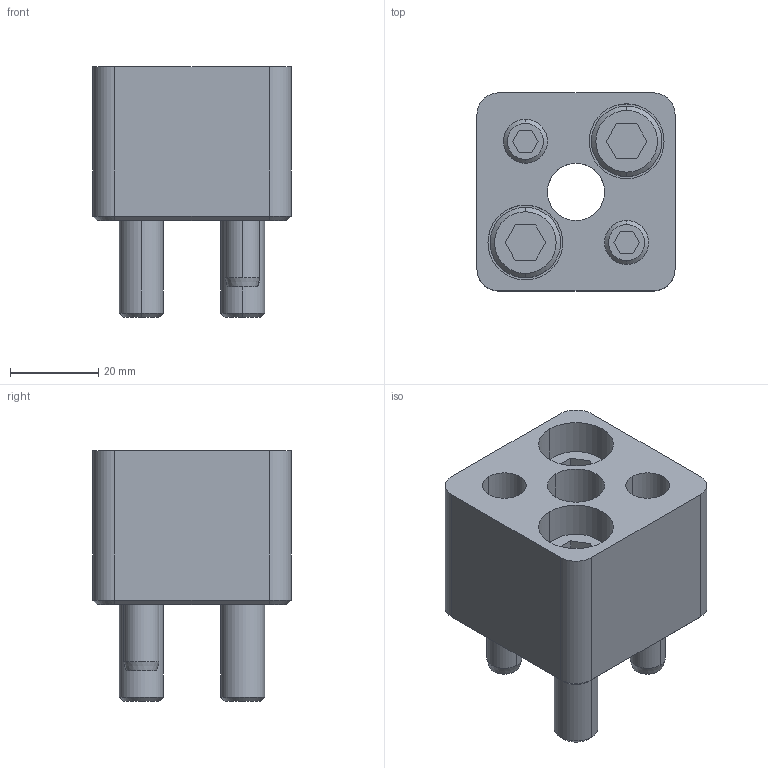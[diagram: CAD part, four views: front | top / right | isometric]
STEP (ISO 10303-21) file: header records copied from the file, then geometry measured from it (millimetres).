
FILE_DESCRIPTION(/* description */ (''),/* implementation_level */ '2;1');
FILE_NAME(/* name */ '3d_hasar13_04021_r00.stp',/* time_stamp */ '2011-01-10T14:14:56+09:00',/* author */ ('MISUMI'),/* organization */ (''),/* preprocessor_version */ 'ST-DEVELOPER v11',/* originating_system */ 'UGS - NX 5.0',/* authorisation */ '');
FILE_SCHEMA (('CONFIG_CONTROL_DESIGN'));
Length unit declared in the file: millimetre
Products named in the file (1): 3d_hasar13_04021_r00
Bounding box: 45 x 45 x 57 mm (x, y, z)
Volume: 61998.5 mm3; surface area: 23175.9 mm2
Topology: 7 solids, 7 shells, 143 faces, 310 edges, 196 vertices
Faces by surface type: plane 63, cylinder 50, cone 30
Entity records: 4026 total; most frequent: DIRECTION 718, CARTESIAN_POINT 704, ORIENTED_EDGE 620, EDGE_CURVE 310, AXIS2_PLACEMENT_3D 274, VERTEX_POINT 196, LINE 170, VECTOR 170
